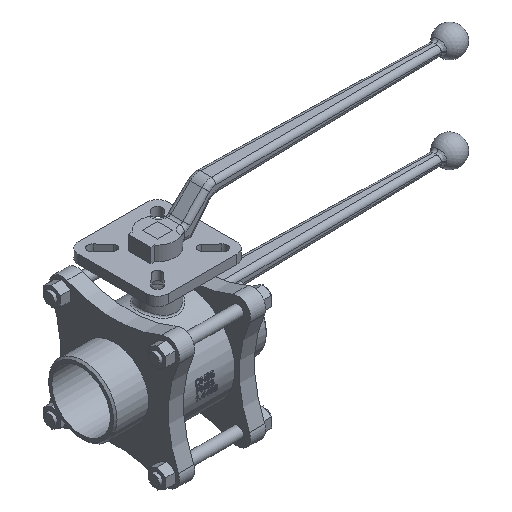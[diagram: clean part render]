
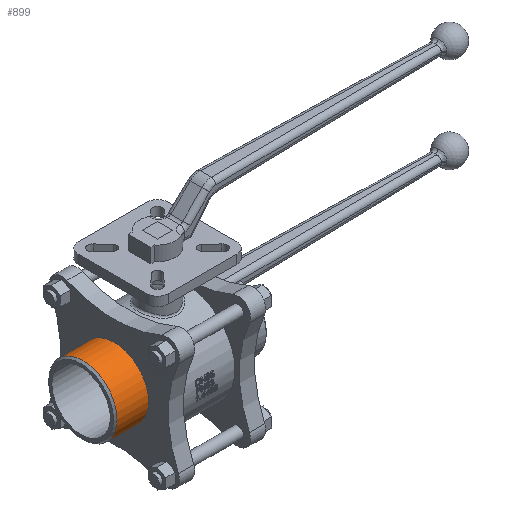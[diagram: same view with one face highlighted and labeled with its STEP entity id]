
A CAD part, isometric view. The second image highlights one B-rep face of the part: STEP entity #899.
In plain terms, the highlighted cylindrical face has radius 38 mm (diameter 76 mm), a full revolution.
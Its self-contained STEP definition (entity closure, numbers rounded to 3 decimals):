
#899 = ADVANCED_FACE( '', ( #1895, #1896 ), #1897, .T. );
#1895 = FACE_OUTER_BOUND( '', #6018, .T. );
#1896 = FACE_OUTER_BOUND( '', #6019, .T. );
#1897 = CYLINDRICAL_SURFACE( '', #6020, 38. );
#6018 = EDGE_LOOP( '', ( #8641 ) );
#6019 = EDGE_LOOP( '', ( #8642 ) );
#6020 = AXIS2_PLACEMENT_3D( '', #8643, #8644, #8645 );
#8641 = ORIENTED_EDGE( '', *, *, #9866, .T. );
#8642 = ORIENTED_EDGE( '', *, *, #9921, .F. );
#8643 = CARTESIAN_POINT( '', ( -31., 0., 0. ) );
#8644 = DIRECTION( '', ( 1., 0., 0. ) );
#8645 = DIRECTION( '', ( 0., -1., 0. ) );
#9866 = EDGE_CURVE( '', #11382, #11382, #11383, .F. );
#9921 = EDGE_CURVE( '', #11446, #11446, #11447, .T. );
#11382 = VERTEX_POINT( '', #16884 );
#11383 = CIRCLE( '', #16885, 38. );
#11446 = VERTEX_POINT( '', #16967 );
#11447 = CIRCLE( '', #16968, 38. );
#16884 = CARTESIAN_POINT( '', ( -83., -38., 0. ) );
#16885 = AXIS2_PLACEMENT_3D( '', #17673, #17674, #17675 );
#16967 = CARTESIAN_POINT( '', ( -48., 38., 0. ) );
#16968 = AXIS2_PLACEMENT_3D( '', #17710, #17711, #17712 );
#17673 = CARTESIAN_POINT( '', ( -83., 0., 0. ) );
#17674 = DIRECTION( '', ( -1., 0., 0. ) );
#17675 = DIRECTION( '', ( 0., -1., 0. ) );
#17710 = CARTESIAN_POINT( '', ( -48., 0., 0. ) );
#17711 = DIRECTION( '', ( 1., 0., 0. ) );
#17712 = DIRECTION( '', ( 0., 1., 0. ) );
